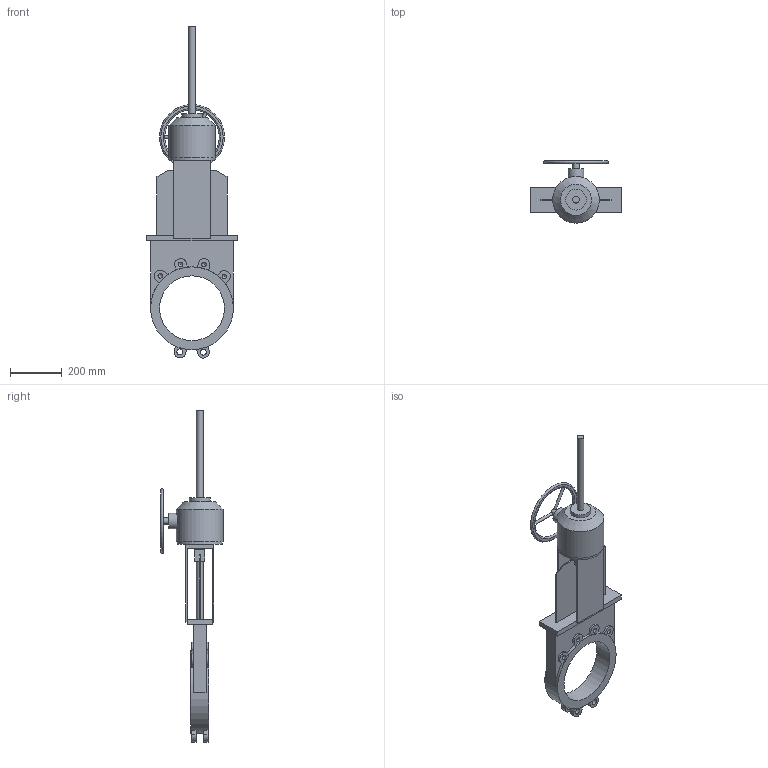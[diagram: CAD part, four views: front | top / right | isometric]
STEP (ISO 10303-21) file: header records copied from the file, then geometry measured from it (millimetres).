
FILE_DESCRIPTION(('STEP AP203'), '1');
FILE_NAME('Çàäâèæêà øèáåðíàÿ K21GV DN250 ðåäóêòîð+âûäâèæíîé øïèíäåëü', '', ('UNSPECIFIED'), ('UNSPECIFIED'), 'ASCON STEP Converter 1.6', 'ASCON Math Kernel', '');
FILE_SCHEMA(('CONFIG_CONTROL_DESIGN'));
Length unit declared in the file: millimetre
Bounding box: 349 x 240 x 1279.84 mm (x, y, z)
Volume: 10686241.2 mm3; surface area: 909261.2 mm2
Topology: 1 solids, 1 shells, 145 faces, 381 edges, 243 vertices
Faces by surface type: plane 94, cylinder 38, cone 9, torus 4
Full cylindrical faces by diameter (mm): 10 x3, 17.294 x8, 23 x4, 24 x1, 26 x2, 60 x1, 80 x1, 175 x1, 180 x1, 250 x1, 319 x1
Entity records: 6687 total; most frequent: CARTESIAN_POINT 1996, DIRECTION 734, ORIENTED_EDGE 676, EDGE_CURVE 338, AXIS2_PLACEMENT_3D 263, VERTEX_POINT 235, LINE 208, VECTOR 208
